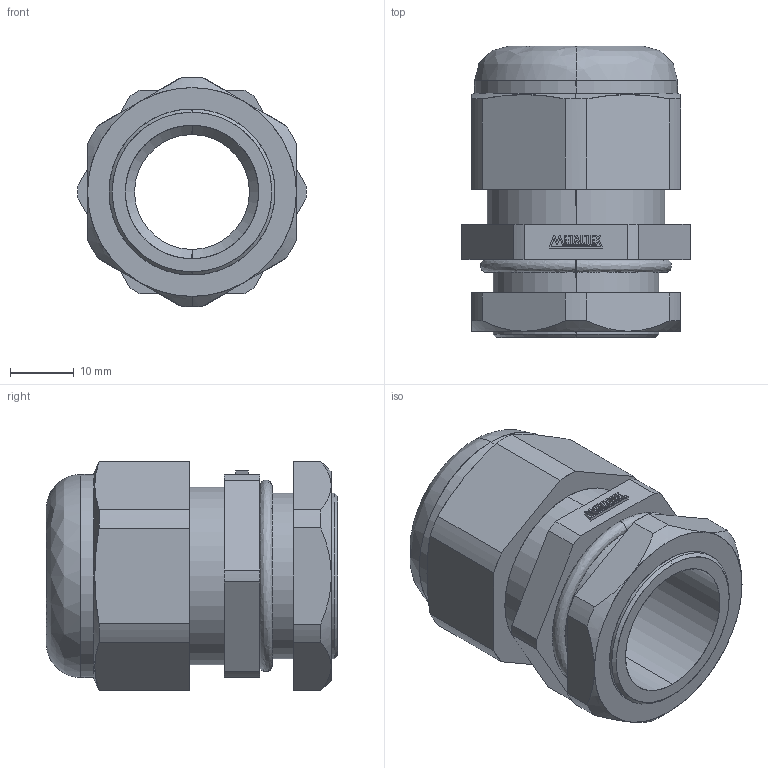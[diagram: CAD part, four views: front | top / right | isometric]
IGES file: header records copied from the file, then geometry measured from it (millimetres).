
Start section: SolidWorks IGES file using analytic representation for surfaces
Global section: file name: D:\X - Arquivos\PROEX\Empresas\P11 - METALTEX\01 - Produtos\IGES\Terceira remessa\Etapa 2\CH-B3_4.IGS; native system: SolidWorks 2012; preprocessor: SolidWorks 2012; author: Usuario; date: 180207.124911; units: millimetre
Bounding box: 35.79 x 45.65 x 36 mm (x, y, z)
Surface area: 9973.3 mm2 (no closed solid volume)
Topology: 0 solids, 0 shells, 174 faces, 1419 edges, 1419 vertices
Faces by surface type: bspline 125, revolution 49
